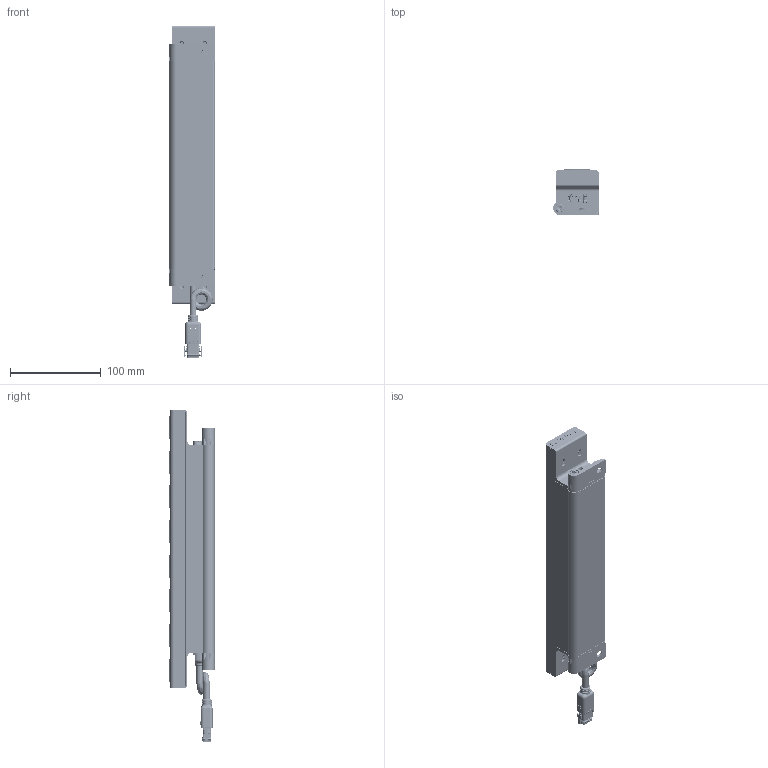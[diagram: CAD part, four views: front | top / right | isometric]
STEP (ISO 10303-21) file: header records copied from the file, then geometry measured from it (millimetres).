
FILE_DESCRIPTION (( 'STEP AP214' ), '1' );
FILE_NAME ('L45 1ft model.STEP', '2023-08-14T21:52:26', ( '' ), ( '' ), 'SwSTEP 2.0', 'SolidWorks 2022', '' );
FILE_SCHEMA (( 'AUTOMOTIVE_DESIGN' ));
Length unit declared in the file: millimetre
Products named in the file (203): RES1206_RES-001313-00-1_D; SMB_CTP-000005-00-1_D; FCAP_P=15_W=5_H=10.5_L=18_CAP-000281-00-1_D; SOT23-3_FET_TRA-000109-00-9; SOIC_8_XIC-000174-00-1_D; SOT26_XIC-000053-00-1; RES0805_RES-000022-00-1; Cable^Cable_2-ACB-000254-00; SOD-123F_DIO-000282-00-1_D; CAP0603_CAP-000019-00-11; RES0402_RES-000877-00-3; Cable Connection; CPV-PQ26_20-1S-12P-Z_MAG-000094-00-1_D; CAP0603_CAP-000502-00-11; CAP1206_CAP-000508-00-1_D; SOT23-5_XIC-000034-00-1_D; CONN_SAM_4P_2.54MM_VERT_CON-000243-00-1_D; RES0402_RES-000957-00-1; CVR-000792-XX_L65; RES0603_RES-000070-00-12; LED_SEOUL_3528_LED-000270-00-1; RES0603_RES-000789-00-1_D; VQFN48_XIC-000116-00-1; SR1; MOV-10D511K_CTP-000009-00-1_D; PTS810_SWH-000002-00-1; OPTO_TLP185_OPT-000021-00-1_D; CAP0805_CAP-000147-00-1; ECOBUS_Wires_105mm long; SOT89-3_XIC-000178-00-1_D; CAP0402_CAP-000309-00-11; GSK-000121-00; CAP0603_CAP-000152-00-1_D; SOT23-5_XIC-000168-00-1; CVR-000791-XX_L65; SMB_DIO-000309-00-1_D; RES0603_RES-001255-00-1_D; SOT323_FET_TRA-000108-00-1; Hybrid_Atlas_RevD_BOARD_D; CONN-5_2.5MM_SINBON_CON-000250-00-1_D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
Assembly tree (411 placements, depth 5):
  L45 1ft model
    BAS-000020-00
    ASY-100006-00_SR1-LOCKED
      HSG-000488-00_175
      ACB-000271-00_SR1-LOCKED
        SR1
        TROV2 Panel Connector
        Cable Connection
        Cable_2-ACB-000254-00
          Cable^Cable_2-ACB-000254-00
      SCW-000509-00_98070A892  x2
    HSG-000491-XX_L45
    OPC-000160-00_Snap Design
    SCW-000574-00_SCW-000574-00  x2
    HSG-000492-00
    SCW-000483-00_92010A014  x4
    TMP-000027-00
    SHT-000042-00
    SCW-000156-00_92005A116  x2
    Hybrid_Atlas_RevD
      Hybrid_Atlas_RevD_BOARD_D
      RES_AXIAL_1_4W_2.6x6.3mm_0.6mmD_RES-001339-00-1_D  x3
      SMB_DIO-000311-00-1_D  x2
      SMB_DIO-000309-00-1_D
      IND_TBP6U255-00_MAG-000114-00-1_D
      ECAP_P=7.5_D=16.5_H=27_HORIZ_TH_CAP-000518-00-1_D
      CAP1808_CAP-000532-00-1_D
      RES0603_RES-000155-00-1_D  x2
      CAP1206_CAP-000529-00-1_D  x2
      CAP1206_CAP-000511-00-1_D  x4
      RES0603_RES-000153-00-1_D  x7
      RES0603_RES-000805-00-1_D
      TH-KEYSTONE-4887_ESP-000001-00-1_D  x2
      FCAP_P=15_W=7_H=12.5_L=18_CAP-000285-00-1_D
      SOT223-3_TRA-000117-00-1_D
      DB_SMC_KBP_DIO-000279-00-1_D
      RES0603_RES-000809-00-1_D  x6
      OPTO_TLP185_OPT-000021-00-1_D  x2
      SOIC-8_EP_XIC-000180-00-1_D
      RES1206_RES-001324-00-1_D
      RES1206_RES-001323-00-1_D  x3
      RES0603_RES-000061-00-1_D  x3
      RES0603_RES-000085-00-1_D
      RES0603_RES-001322-00-1_D
      RES0603_RES-001332-00-1_D
      RES0603_RES-000092-00-1_D  x3
      RES0603_RES-001310-00-1_D  x2
      RES0603_RES-001316-00-1_D  x2
      RES0603_RES-000074-00-1_D
      CONN_SAM_4P_2.54MM_VERT_CON-000243-00-1_D
      CONN-4_2.5MM_SINBON_CON-000221-00-1_D  x2
      SMF_DIO-000286-00-1_D  x4
      CAP0603_CAP-000519-00-1_D  x2
      CAP0603_CAP-000502-00-1_D
      CAP0603_CAP-000152-00-1_D  x5
      SOD-123_DIO-000276-00-1_D  x3
      OPTO_TLP185_OPT-000021-01-1_D
      SOD-123_DIO-000299-00-1_D
      SOD-123F_DIO-000282-00-1_D  x2
      SOT23-3_BJT_TRA-000103-00-1_D
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Bounding box: 50 x 50.79 x 365.09 mm (x, y, z)
Volume: 341869.7 mm3; surface area: 423829.5 mm2
Topology: 458 solids, 2314 shells, 18890 faces, 52207 edges, 36144 vertices
Faces by surface type: plane 10879, cylinder 4814, bspline 1569, sphere 780, cone 554, torus 294
Entity records: 680780 total; most frequent: CARTESIAN_POINT 208248, ORIENTED_EDGE 73853, DIRECTION 70012, EDGE_CURVE 41521, VERTEX_POINT 29753, LINE 26952, VECTOR 26952, AXIS2_PLACEMENT_3D 21530
